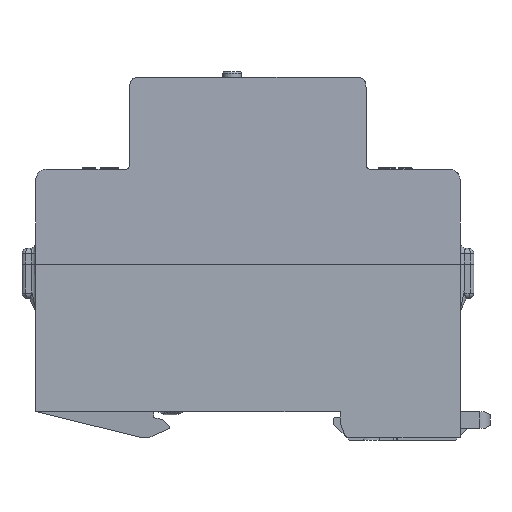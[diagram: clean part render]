
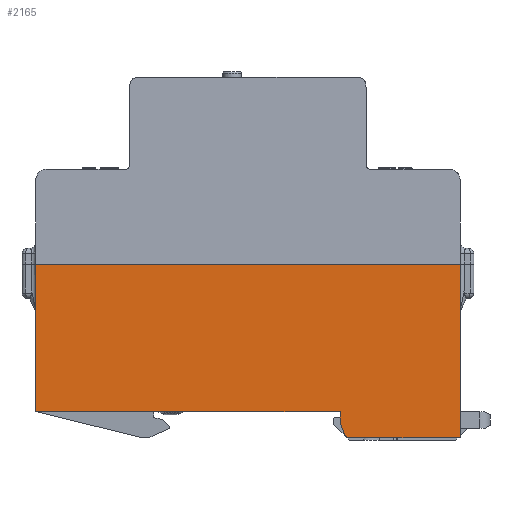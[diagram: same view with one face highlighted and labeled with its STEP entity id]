
A CAD part, left-side view. The second image highlights one B-rep face of the part: STEP entity #2165.
In plain terms, the highlighted planar face has unit normal (-1, 0, -0.006) as drawn and (0, -0.006, -1) by its records, which use the part's own axes.
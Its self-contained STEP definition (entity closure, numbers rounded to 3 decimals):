
#2165=ADVANCED_FACE('',(#35697),#35699,.T.);
#35697=FACE_BOUND('',#35698,.T.);
#35698=EDGE_LOOP('',(#69024,#69025,#69026,#69027,#69028,#69029,#69030,#69031,#69032));
#35699=PLANE('',#35700);
#35700=AXIS2_PLACEMENT_3D('',#35701,#35702,#35703);
#35701=CARTESIAN_POINT('',(-40.35,28.,-17.5));
#35702=DIRECTION('',(0.,-0.006,-1.));
#35703=DIRECTION('',(0.,1.,-0.006));
#69024=ORIENTED_EDGE('',*,*,#91785,.F.);
#69025=ORIENTED_EDGE('',*,*,#91786,.T.);
#69026=ORIENTED_EDGE('',*,*,#91787,.T.);
#69027=ORIENTED_EDGE('',*,*,#91788,.T.);
#69028=ORIENTED_EDGE('',*,*,#91172,.T.);
#69029=ORIENTED_EDGE('',*,*,#91567,.F.);
#69030=ORIENTED_EDGE('',*,*,#91003,.F.);
#69031=ORIENTED_EDGE('',*,*,#91521,.T.);
#69032=ORIENTED_EDGE('',*,*,#91334,.F.);
#91003=EDGE_CURVE('',#101746,#101748,#101749,.T.);
#91172=EDGE_CURVE('',#102069,#102067,#102070,.T.);
#91334=EDGE_CURVE('',#102353,#102355,#102356,.T.);
#91521=EDGE_CURVE('',#101746,#102355,#102676,.T.);
#91567=EDGE_CURVE('',#101748,#102067,#102763,.T.);
#91785=EDGE_CURVE('',#103148,#102353,#103149,.T.);
#91786=EDGE_CURVE('',#103148,#103150,#103151,.T.);
#91787=EDGE_CURVE('',#103150,#103152,#103153,.T.);
#91788=EDGE_CURVE('',#103152,#102069,#103154,.T.);
#101746=VERTEX_POINT('',#120158);
#101748=VERTEX_POINT('',#120162);
#101749=LINE('',#120163,#120164);
#102067=VERTEX_POINT('',#120842);
#102069=VERTEX_POINT('',#120846);
#102070=LINE('',#120847,#120848);
#102353=VERTEX_POINT('',#121458);
#102355=VERTEX_POINT('',#121462);
#102356=LINE('',#121463,#121464);
#102676=LINE('',#122315,#122316);
#102763=LINE('',#122565,#122566);
#103148=VERTEX_POINT('',#123580);
#103149=LINE('',#123581,#123582);
#103150=VERTEX_POINT('',#123584);
#103151=(BOUNDED_CURVE()B_SPLINE_CURVE(3,
(#123585,#123586,#123587,#123588),
.UNSPECIFIED.,.F.,.F.)B_SPLINE_CURVE_WITH_KNOTS((4,4),
(0.,1.),
.UNSPECIFIED.)CURVE()GEOMETRIC_REPRESENTATION_ITEM()RATIONAL_B_SPLINE_CURVE((1.,
0.99,0.99,1.))REPRESENTATION_ITEM(''));
#103152=VERTEX_POINT('',#123589);
#103153=LINE('',#123590,#123591);
#103154=(BOUNDED_CURVE()B_SPLINE_CURVE(3,
(#123593,#123594,#123595,#123596),
.UNSPECIFIED.,.F.,.F.)B_SPLINE_CURVE_WITH_KNOTS((4,4),
(0.,1.),
.UNSPECIFIED.)CURVE()GEOMETRIC_REPRESENTATION_ITEM()RATIONAL_B_SPLINE_CURVE((1.,
0.879,0.879,1.))REPRESENTATION_ITEM(''));
#120158=CARTESIAN_POINT('',(40.35,28.,-17.5));
#120162=CARTESIAN_POINT('',(-40.35,28.,-17.5));
#120163=CARTESIAN_POINT('',(40.35,28.,-17.5));
#120164=VECTOR('',#120165,1.);
#120165=DIRECTION('',(-1.,0.,0.));
#120842=CARTESIAN_POINT('',(-40.35,-5.,-17.31));
#120846=CARTESIAN_POINT('',(-19.292,-5.,-17.31));
#120847=CARTESIAN_POINT('',(-19.292,-5.,-17.31));
#120848=VECTOR('',#120849,1.);
#120849=DIRECTION('',(-1.,0.,0.));
#121458=CARTESIAN_POINT('',(-17.5,0.,-17.339));
#121462=CARTESIAN_POINT('',(40.35,0.,-17.339));
#121463=CARTESIAN_POINT('',(-17.5,0.,-17.339));
#121464=VECTOR('',#121465,1.);
#121465=DIRECTION('',(1.,0.,0.));
#122315=CARTESIAN_POINT('',(40.35,28.,-17.5));
#122316=VECTOR('',#122317,1.);
#122317=DIRECTION('',(0.,-1.,0.006));
#122565=CARTESIAN_POINT('',(-40.35,28.,-17.5));
#122566=VECTOR('',#122567,1.);
#122567=DIRECTION('',(0.,-1.,0.006));
#123580=CARTESIAN_POINT('',(-17.5,-1.824,-17.328));
#123581=CARTESIAN_POINT('',(-17.5,-1.824,-17.328));
#123582=VECTOR('',#123583,1.);
#123583=DIRECTION('',(0.,1.,-0.006));
#123584=CARTESIAN_POINT('',(-17.56,-2.166,-17.326));
#123585=CARTESIAN_POINT('',(-17.5,-1.824,-17.328));
#123586=CARTESIAN_POINT('',(-17.5,-1.941,-17.328));
#123587=CARTESIAN_POINT('',(-17.52,-2.056,-17.327));
#123588=CARTESIAN_POINT('',(-17.56,-2.166,-17.326));
#123589=CARTESIAN_POINT('',(-18.352,-4.342,-17.314));
#123590=CARTESIAN_POINT('',(-17.56,-2.166,-17.326));
#123591=VECTOR('',#123592,1.);
#123592=DIRECTION('',(-0.342,-0.94,0.005));
#123593=CARTESIAN_POINT('',(-18.352,-4.342,-17.314));
#123594=CARTESIAN_POINT('',(-18.501,-4.751,-17.311));
#123595=CARTESIAN_POINT('',(-18.857,-5.,-17.31));
#123596=CARTESIAN_POINT('',(-19.292,-5.,-17.31));
